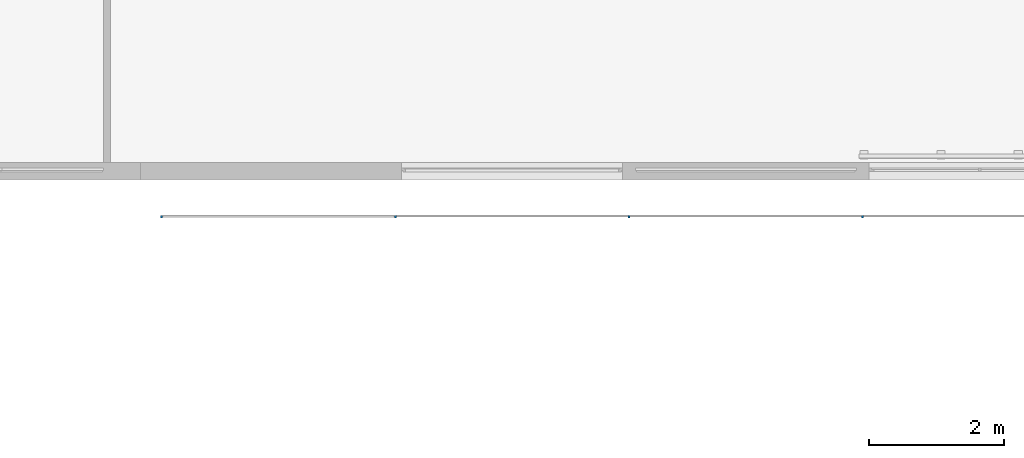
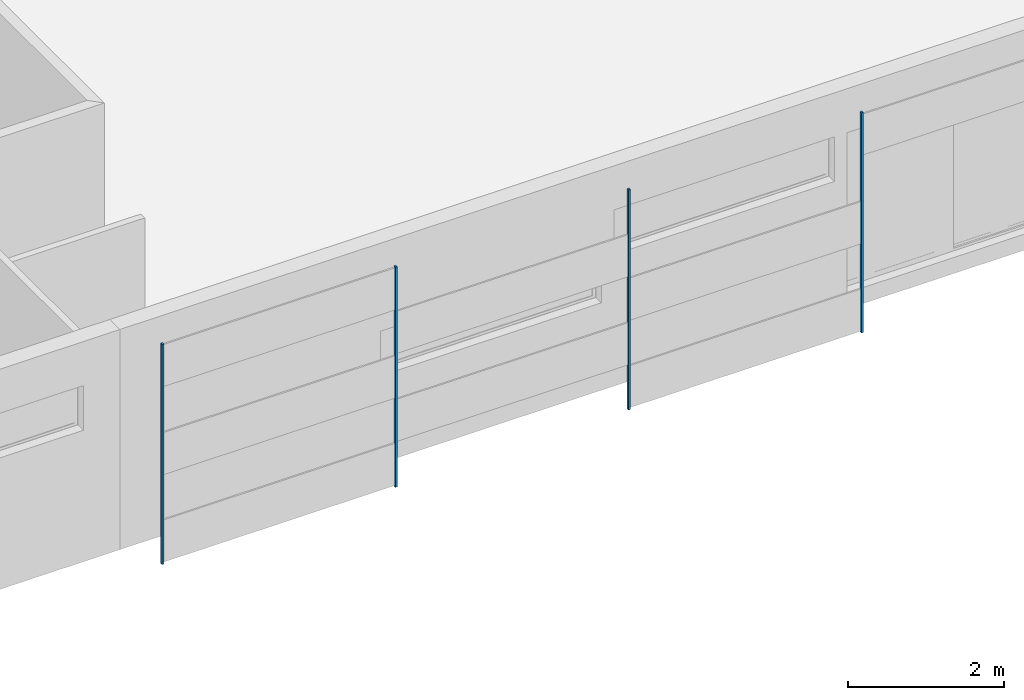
# One storey, part 1 of 14: 4 columns.
"""IFC2X3 building model written with IfcOpenShell, lengths in metres."""

from ifc_helpers import new_model, entity, si_unit, converted_unit, money_unit, direction, frame, origin_with_axes, origin_2d_with_axis, place, context, subcontext, project, spatial, rectangle, extrude, material, type_object, element, save


model = new_model("IFC2X3")

# Units and contexts
model_context = context("Model", 3, precision=1e-05, world=origin_with_axes(), true_north=direction((0.0, 1.0)))
body_context = subcontext(model_context, "Body", "Model", "MODEL_VIEW")
ifc_project = project(units=[si_unit("LENGTHUNIT", "METRE"), si_unit("AREAUNIT", "SQUARE_METRE"), si_unit("VOLUMEUNIT", "CUBIC_METRE"), converted_unit("PLANEANGLEUNIT", "DEGREE", entity("IfcPlaneAngleMeasure", 0.0174532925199), si_unit("PLANEANGLEUNIT", "RADIAN"), dimensions=[0, 0, 0, 0, 0, 0, 0]), si_unit("SOLIDANGLEUNIT", "STERADIAN"), money_unit("EUR"), converted_unit("TIMEUNIT", "Year", entity("IfcTimeMeasure", 31556926.0), si_unit("TIMEUNIT", "SECOND"), dimensions=[0, 0, 0, 0, 0, 0, 0]), si_unit("MASSUNIT", "GRAM"), si_unit("THERMODYNAMICTEMPERATUREUNIT", "DEGREE_CELSIUS"), si_unit("LUMINOUSINTENSITYUNIT", "LUMEN")], contexts=[model_context])

# Site, building, storey
site_placement = place(None, origin_with_axes())
site = spatial("IfcSite", under=ifc_project, at=site_placement, Name="Site", CompositionType="ELEMENT")
building_placement = place(site_placement, origin_with_axes())
building = spatial("IfcBuilding", under=site, at=building_placement, Name="Bâtiment", CompositionType="ELEMENT")
storey_placement = place(building_placement, frame((0.0, 0.0, 3.0), z_axis=(0.0, 0.0, 1.0), x_axis=(1.0, 0.0, 0.0)))
storey = spatial("IfcBuildingStorey", under=building, at=storey_placement, Name="NIVEAU HAUT ENTRÉE", CompositionType="ELEMENT", Elevation=3.0)

# Columns
ifc_material = material(Name="Empty Fill 1720032642")
column_type = type_object("IfcColumnType", Name="Empty Fill 1720032642 30 x 40", PredefinedType="NOTDEFINED")
for number, where, z_axis, x_axis, name in (
    (1, (53.411457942, 5.32555409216, -0.25), (0.0, 0.0, 1.0), (1.0, 0.0, 0.0), "Pilier-002"),
    (2, (56.869457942, 5.32555409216, -0.25), (0.0, 0.0, 1.0), (1.0, 0.0, 0.0), "Pilier-002"),
    (3, (60.318457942, 5.32555409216, -0.25), (0.0, 0.0, 1.0), (1.0, 0.0, 0.0), "Pilier-002"),
    (4, (49.953457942, 5.32555409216, -0.25), (0.0, 0.0, 1.0), (1.0, 0.0, 0.0), "Pilier-002"),
):
    element("IfcColumn", number, at=place(storey_placement, frame(where, z_axis=z_axis, x_axis=x_axis)), inside=storey, type_object=column_type, material=ifc_material, Name=name, ObjectType="Empty Fill 1720032642 30 x 40", context=body_context, shape_type="SweptSolid", body=[
        extrude(rectangle(XDim=0.03, YDim=0.04, at=origin_2d_with_axis()), origin_with_axes(), (0.0, 0.0, 1.0), 3.45),
    ])

save(model, "model.ifc")
